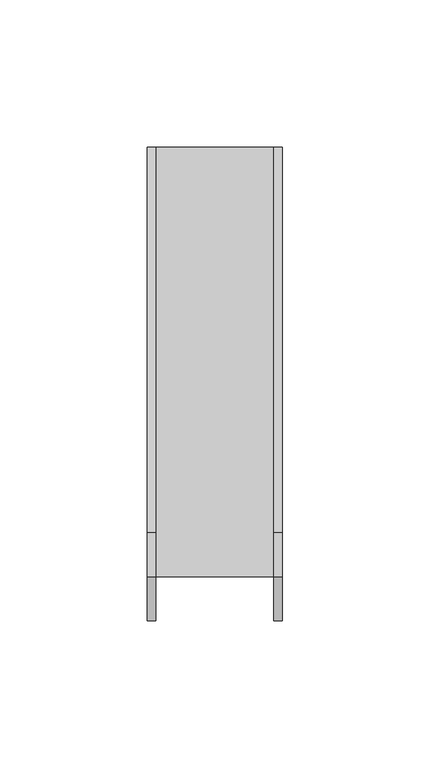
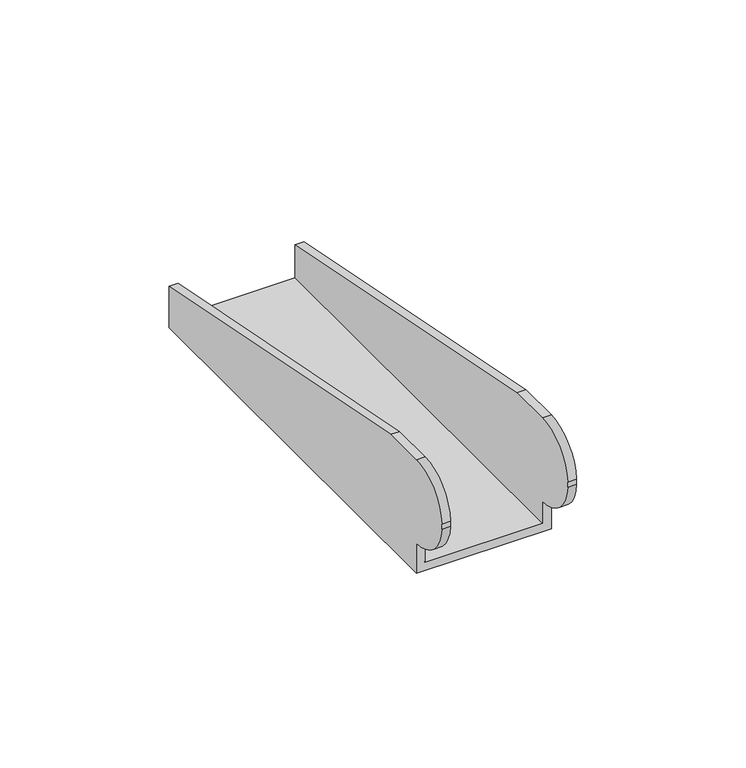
"""IFC4 building model written with IfcOpenShell, lengths in millimetres: proxy geometry, 4182H-1_Accessory-Basorfix : Basorfix 4182H-1 I304."""

from ifc_helpers import new_model, si_unit, frame, origin, place, context, project, spatial, circle_curve, source, transform, mapped, element, save
from ifc_brep_helpers import plane_surface, cylinder_surface, advanced_brep


def generic_models_3813aef3(model_context):
    return source(origin(), model_context, "Body", "AdvancedBrep", [
        advanced_brep(
        [(19.9978156, -15.0, 26.850843), (19.9978156, -15.0, 25.0979926), (22.9978156, -15.0, 25.0979926), (22.9978156, -15.0, 26.850843), (-19.9978156, -15.0, 25.0979926), (-19.9978156, -15.0, 26.850843), (-22.9978156, -15.0, 26.850843), (-22.9978156, -15.0, 25.0979926), (22.9978156, 146.0, 0.0), (-22.9978156, 146.0, 0.0), (-22.9978156, 146.0, 14.9131073), (-19.9978156, 146.0, 14.9131073), (-19.9978156, 146.0, 3.0), (19.9978156, 146.0, 3.0), (19.9978156, 146.0, 14.9131073), (22.9978156, 146.0, 14.9131073), (19.9978156, 0.0, 41.0), (19.9978156, 15.0, 41.0), (19.9978156, 0.0, 3.0), (19.9978156, 0.0, 10.9488356), (-19.9978156, 0.0, 3.0), (-19.9978156, 0.0, 10.9488356), (-19.9978156, 15.0, 41.0), (-19.9978156, 0.0, 41.0), (-22.9978156, 15.0, 41.0), (-22.9978156, 0.0, 41.0), (-22.9978156, 0.0, 0.0), (-22.9978156, 0.0, 10.9488356), (22.9978156, 0.0, 0.0), (22.9978156, 0.0, 10.9488356), (22.9978156, 15.0, 41.0), (22.9978156, 0.0, 41.0)],
        [
            (0, 1),
            (1, 2),
            (2, 3),
            (3, 0),
            (4, 5),
            (5, 6),
            (6, 7),
            (7, 4),
            (8, 9),
            (9, 10),
            (10, 11),
            (11, 12),
            (12, 13),
            (13, 14),
            (14, 15),
            (15, 8),
            (0, 16, circle_curve(frame((19.9978156, 0.0, 25.9744178), z_axis=(-1.0, 0.0, 0.0), x_axis=(0.0, 1.0, 0.0)), 15.0255822)),
            (16, 17),
            (17, 14),
            (13, 18),
            (18, 19),
            (19, 1, circle_curve(frame((19.9978156, 0.0, 25.9744178), z_axis=(-1.0, 0.0, 0.0), x_axis=(0.0, 1.0, 0.0)), 15.0255822)),
            (12, 20),
            (20, 18),
            (4, 21, circle_curve(frame((-19.9978156, 0.0, 25.9744178), z_axis=(1.0, 0.0, 0.0), x_axis=(0.0, 1.0, 0.0)), 15.0255822)),
            (21, 20),
            (11, 22),
            (22, 23),
            (23, 5, circle_curve(frame((-19.9978156, 0.0, 25.9744178), z_axis=(1.0, 0.0, 0.0), x_axis=(0.0, 1.0, 0.0)), 15.0255822)),
            (22, 24),
            (24, 25),
            (25, 23),
            (6, 25, circle_curve(frame((-22.9978156, 0.0, 25.9744178), z_axis=(-1.0, 0.0, 0.0), x_axis=(0.0, 1.0, 0.0)), 15.0255822)),
            (24, 10),
            (9, 26),
            (26, 27),
            (27, 7, circle_curve(frame((-22.9978156, 0.0, 25.9744178), z_axis=(-1.0, 0.0, 0.0), x_axis=(0.0, 1.0, 0.0)), 15.0255822)),
            (8, 28),
            (28, 26),
            (2, 29, circle_curve(frame((22.9978156, 0.0, 25.9744178), z_axis=(1.0, 0.0, 0.0), x_axis=(0.0, 1.0, 0.0)), 15.0255822)),
            (29, 28),
            (15, 30),
            (30, 31),
            (31, 3, circle_curve(frame((22.9978156, 0.0, 25.9744178), z_axis=(1.0, 0.0, 0.0), x_axis=(0.0, 1.0, 0.0)), 15.0255822)),
            (16, 31),
            (30, 17),
            (27, 21),
            (19, 29),
        ],
        [
            plane_surface(frame((19.9978156, -15.0, 41.0), z_axis=(0.0, -1.0, 0.0), x_axis=(0.0, 0.0, -1.0))),
            plane_surface(frame((19.9978156, 146.0, 41.0), z_axis=(0.0, 1.0, 0.0), x_axis=(0.0, 0.0, 1.0))),
            plane_surface(frame((19.9978156, -15.0, 41.0), z_axis=(-1.0, 0.0, 0.0), x_axis=(0.0, 1.0, 0.0))),
            plane_surface(frame((19.9978156, -15.0, 3.0), z_axis=(0.0, 0.0, 1.0), x_axis=(0.0, 1.0, 0.0))),
            plane_surface(frame((-19.9978156, -15.0, 3.0), z_axis=(1.0, 0.0, 0.0), x_axis=(0.0, 1.0, 0.0))),
            plane_surface(frame((-19.9978156, -15.0, 41.0), z_axis=(0.0, 0.0, 1.0), x_axis=(0.0, 1.0, 0.0))),
            plane_surface(frame((-22.9978156, -15.0, 41.0), z_axis=(-1.0, 0.0, 0.0), x_axis=(0.0, 1.0, 0.0))),
            plane_surface(frame((-22.9978156, -15.0, 0.0), z_axis=(0.0, 0.0, -1.0), x_axis=(0.0, 1.0, 0.0))),
            plane_surface(frame((22.9978156, -15.0, 0.0), z_axis=(1.0, 0.0, 0.0), x_axis=(0.0, 1.0, 0.0))),
            plane_surface(frame((22.9978156, -15.0, 41.0), z_axis=(0.0, 0.0, 1.0), x_axis=(0.0, 1.0, 0.0))),
            plane_surface(frame((28.5, 15.0, 41.0), z_axis=(0.0, 0.1953018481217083, 0.9807431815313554), x_axis=(-1.0, 0.0, 0.0))),
            cylinder_surface(frame((0.0, 0.0, 25.9744178), z_axis=(-1.0, 0.0, 0.0), x_axis=(0.0, 1.0, 0.0)), 15.0255822),
            plane_surface(frame((28.5, 0.0, 0.0), z_axis=(0.0, -1.0, 0.0), x_axis=(-1.0, 0.0, 0.0))),
        ],
        [
            (0, [[1, 2, 3, 4]]),
            (0, [[5, 6, 7, 8]]),
            (1, [[9, 10, 11, 12, 13, 14, 15, 16]]),
            (2, [[-1, 17, 18, 19, -14, 20, 21, 22]]),
            (3, [[-13, 23, 24, -20]]),
            (4, [[-5, 25, 26, -23, -12, 27, 28, 29]]),
            (5, [[-28, 30, 31, 32]]),
            (6, [[-7, 33, -31, 34, -10, 35, 36, 37]]),
            (7, [[-9, 38, 39, -35]]),
            (8, [[-3, 40, 41, -38, -16, 42, 43, 44]]),
            (9, [[-18, 45, -43, 46]]),
            (10, [[-11, -34, -30, -27]]),
            (10, [[-15, -19, -46, -42]]),
            (11, [[-4, -44, -45, -17]]),
            (11, [[-6, -29, -32, -33]]),
            (11, [[47, -25, -8, -37]]),
            (11, [[48, -40, -2, -22]]),
            (12, [[-47, -36, -39, -41, -48, -21, -24, -26]]),
        ],
    ),
    ])


if __name__ == "__main__":
    model = new_model("IFC4")
    model_context = context("Model", 3, world=origin())
    ifc_project = project(units=[si_unit("LENGTHUNIT", "METRE", prefix="MILLI")], contexts=[model_context])
    site = spatial("IfcSite", under=ifc_project)
    building = spatial("IfcBuilding", under=site)
    placement = place(None, origin())
    generic_models_shape = generic_models_3813aef3(model_context)
    element("IfcBuildingElementProxy", 1, Name="4182H-1_Accessory-Basorfix : Basorfix 4182H-1 I304", ObjectType="4182H-1_Accessory-Basorfix : Basorfix 4182H-1 I304", at=placement, inside=building, context=model_context, shape_type="MappedRepresentation", body=[
        mapped(generic_models_shape, transform((0.0, 0.0, 0.0), x_axis=(1.0, 0.0, 0.0), y_axis=(0.0, 1.0, 0.0), z_axis=(0.0, 0.0, 1.0))),
    ])
    save(model, "model.ifc")
